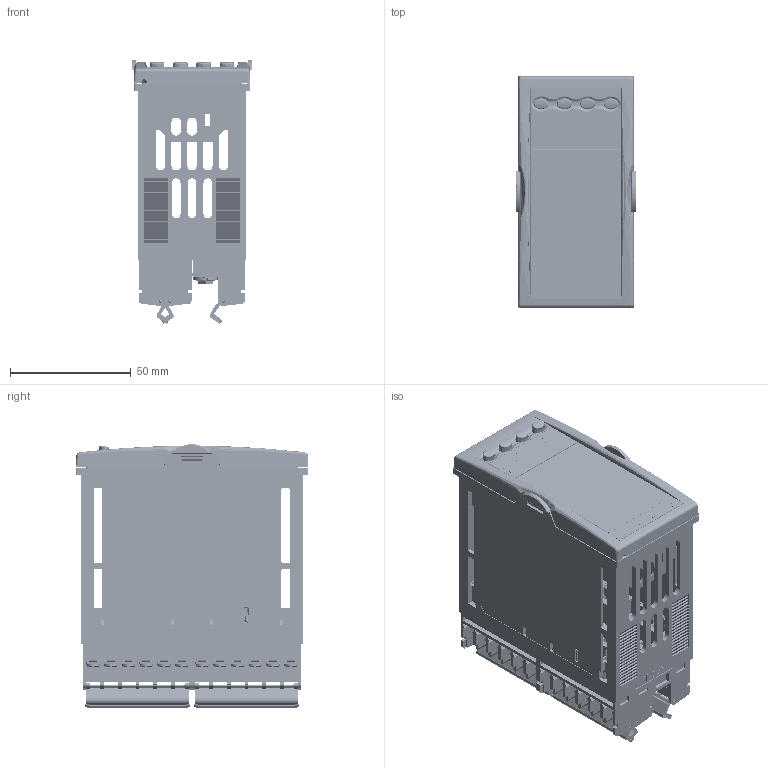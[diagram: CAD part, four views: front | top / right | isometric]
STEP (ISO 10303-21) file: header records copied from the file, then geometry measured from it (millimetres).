
FILE_DESCRIPTION((''),'2;1');
FILE_NAME('32H8IGES','2012-02-27T',('chrisloe'),(''),'PRO/ENGINEER BY PARAMETRIC TECHNOLOGY CORPORATION, 2010180','PRO/ENGINEER BY PARAMETRIC TECHNOLOGY CORPORATION, 2010180','');
FILE_SCHEMA(('CONFIG_CONTROL_DESIGN'));
Products named in the file (1): 32H8IGES
Bounding box: 50 x 96.06 x 108.97 mm (x, y, z)
Volume: 97040.9 mm3; surface area: 143635.5 mm2
Topology: 3 solids, 108 shells, 14826 faces, 40554 edges, 25888 vertices
Faces by surface type: plane 12034, cylinder 2249, cone 250, bspline 119, torus 111, extrusion 48, sphere 15
Entity records: 478488 total; most frequent: CARTESIAN_POINT 108865, ORIENTED_EDGE 80860, DIRECTION 70315, EDGE_CURVE 40512, VECTOR 31981, LINE 31933, VERTEX_POINT 25888, AXIS2_PLACEMENT_3D 19167
